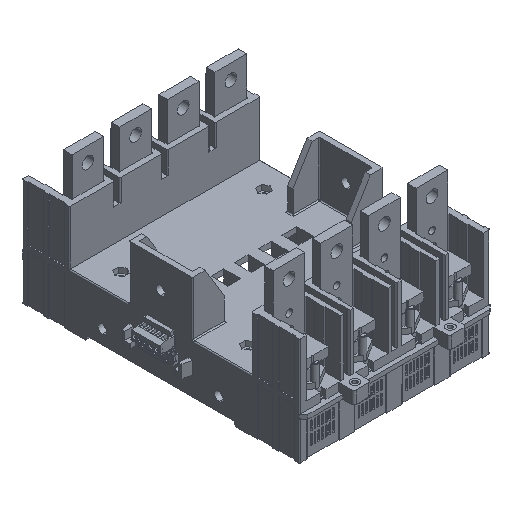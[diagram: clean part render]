
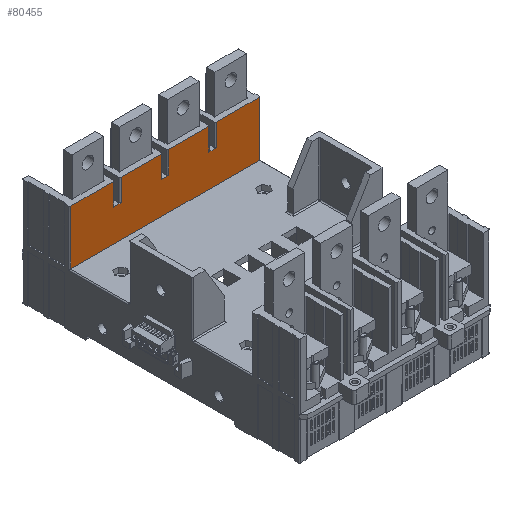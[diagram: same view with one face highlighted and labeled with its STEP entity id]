
A CAD part, isometric view. The second image highlights one B-rep face of the part: STEP entity #80455.
In plain terms, the highlighted planar face has unit normal (0, -1, 0).
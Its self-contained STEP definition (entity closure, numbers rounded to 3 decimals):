
#1139 = EDGE_CURVE ( 'NONE', #23767, #39911, #27699, .T. ) ;
#3789 = DIRECTION ( 'NONE',  ( 0., 1., 0. ) ) ;
#6859 = LINE ( 'NONE', #103410, #134802 ) ;
#8192 = CARTESIAN_POINT ( 'NONE',  ( -5.599, 171.5, 101.5 ) ) ;
#8262 = CARTESIAN_POINT ( 'NONE',  ( 93.6, 171.5, 80.5 ) ) ;
#10829 = VECTOR ( 'NONE', #90984, 1000. ) ;
#11875 = CARTESIAN_POINT ( 'NONE',  ( 1., 171.5, -111.719 ) ) ;
#14319 = LINE ( 'NONE', #11875, #129276 ) ;
#15366 = DIRECTION ( 'NONE',  ( 1., 0., 0. ) ) ;
#16218 = VERTEX_POINT ( 'NONE', #18554 ) ;
#18554 = CARTESIAN_POINT ( 'NONE',  ( 179., 171.5, 101.5 ) ) ;
#21899 = ORIENTED_EDGE ( 'NONE', *, *, #1139, .F. ) ;
#23767 = VERTEX_POINT ( 'NONE', #117277 ) ;
#25292 = DIRECTION ( 'NONE',  ( 1., 0., 0. ) ) ;
#25602 = DIRECTION ( 'NONE',  ( 1., 0., 0. ) ) ;
#26093 = CARTESIAN_POINT ( 'NONE',  ( 131.4, 171.5, 80.5 ) ) ;
#27699 = LINE ( 'NONE', #100104, #112521 ) ;
#28164 = LINE ( 'NONE', #76432, #10829 ) ;
#29044 = CARTESIAN_POINT ( 'NONE',  ( 138.6, 171.5, 80.5 ) ) ;
#35039 = CARTESIAN_POINT ( 'NONE',  ( 41.4, 171.5, 101.5 ) ) ;
#35719 = VECTOR ( 'NONE', #85680, 1000. ) ;
#36041 = DIRECTION ( 'NONE',  ( -1., 0., 0. ) ) ;
#37281 = CARTESIAN_POINT ( 'NONE',  ( -5.599, 171.5, 101.5 ) ) ;
#38381 = LINE ( 'NONE', #110840, #73053 ) ;
#38541 = DIRECTION ( 'NONE',  ( 1., 0., 0. ) ) ;
#39455 = ORIENTED_EDGE ( 'NONE', *, *, #42049, .F. ) ;
#39536 = CARTESIAN_POINT ( 'NONE',  ( -5.599, 171.5, 80.5 ) ) ;
#39543 = ORIENTED_EDGE ( 'NONE', *, *, #86585, .F. ) ;
#39562 = VECTOR ( 'NONE', #78300, 1000. ) ;
#39911 = VERTEX_POINT ( 'NONE', #26093 ) ;
#40946 = LINE ( 'NONE', #125478, #46571 ) ;
#42049 = EDGE_CURVE ( 'NONE', #126585, #84519, #14319, .T. ) ;
#42345 = CARTESIAN_POINT ( 'NONE',  ( -5.599, 171.5, -111.719 ) ) ;
#43087 = VERTEX_POINT ( 'NONE', #114094 ) ;
#46571 = VECTOR ( 'NONE', #38541, 1000. ) ;
#47036 = CARTESIAN_POINT ( 'NONE',  ( -5.599, 171.5, 80.5 ) ) ;
#48046 = VECTOR ( 'NONE', #15366, 1000. ) ;
#49036 = VECTOR ( 'NONE', #97719, 1000. ) ;
#49421 = VECTOR ( 'NONE', #118097, 1000. ) ;
#51089 = ORIENTED_EDGE ( 'NONE', *, *, #148725, .F. ) ;
#51941 = ORIENTED_EDGE ( 'NONE', *, *, #61020, .F. ) ;
#52731 = VECTOR ( 'NONE', #105182, 1000. ) ;
#54493 = ORIENTED_EDGE ( 'NONE', *, *, #92754, .F. ) ;
#55804 = DIRECTION ( 'NONE',  ( 0., 0., -1. ) ) ;
#59423 = VERTEX_POINT ( 'NONE', #35039 ) ;
#61020 = EDGE_CURVE ( 'NONE', #131899, #91900, #77346, .T. ) ;
#62369 = FACE_OUTER_BOUND ( 'NONE', #67781, .T. ) ;
#63567 = DIRECTION ( 'NONE',  ( 0., 0., -1. ) ) ;
#67781 = EDGE_LOOP ( 'NONE', ( #73117, #51089, #80985, #21899, #82743, #54493, #93267, #39543, #51941, #108527, #111260, #84819, #85833, #39455, #71535, #142523 ) ) ;
#68562 = CARTESIAN_POINT ( 'NONE',  ( 138.6, 171.5, 101.5 ) ) ;
#68672 = CARTESIAN_POINT ( 'NONE',  ( -5.599, 171.5, 101.5 ) ) ;
#70304 = EDGE_CURVE ( 'NONE', #84519, #59423, #104887, .T. ) ;
#70978 = LINE ( 'NONE', #8192, #48046 ) ;
#71344 = CARTESIAN_POINT ( 'NONE',  ( 1., 171.5, 101.5 ) ) ;
#71535 = ORIENTED_EDGE ( 'NONE', *, *, #76528, .F. ) ;
#73053 = VECTOR ( 'NONE', #36041, 1000. ) ;
#73117 = ORIENTED_EDGE ( 'NONE', *, *, #89396, .F. ) ;
#73858 = PLANE ( 'NONE',  #108212 ) ;
#74040 = EDGE_CURVE ( 'NONE', #89974, #78850, #90388, .T. ) ;
#75481 = EDGE_CURVE ( 'NONE', #16218, #109215, #147698, .T. ) ;
#76432 = CARTESIAN_POINT ( 'NONE',  ( 138.6, 171.5, -111.719 ) ) ;
#76528 = EDGE_CURVE ( 'NONE', #109215, #126585, #38381, .T. ) ;
#77346 = LINE ( 'NONE', #106318, #105022 ) ;
#78171 = LINE ( 'NONE', #140840, #121769 ) ;
#78300 = DIRECTION ( 'NONE',  ( 1., 0., 0. ) ) ;
#78850 = VERTEX_POINT ( 'NONE', #8262 ) ;
#79829 = DIRECTION ( 'NONE',  ( 1., 0., 0. ) ) ;
#80051 = VECTOR ( 'NONE', #55804, 1000. ) ;
#80455 = ADVANCED_FACE ( 'NONE', ( #62369 ), #73858, .F. ) ;
#80985 = ORIENTED_EDGE ( 'NONE', *, *, #129462, .F. ) ;
#82743 = ORIENTED_EDGE ( 'NONE', *, *, #128735, .F. ) ;
#82953 = CARTESIAN_POINT ( 'NONE',  ( 179., 171.5, 50. ) ) ;
#84519 = VERTEX_POINT ( 'NONE', #71344 ) ;
#84819 = ORIENTED_EDGE ( 'NONE', *, *, #147337, .F. ) ;
#85680 = DIRECTION ( 'NONE',  ( 1., 0., 0. ) ) ;
#85833 = ORIENTED_EDGE ( 'NONE', *, *, #70304, .F. ) ;
#86585 = EDGE_CURVE ( 'NONE', #91900, #89974, #78171, .T. ) ;
#87869 = CARTESIAN_POINT ( 'NONE',  ( 1., 171.5, 50. ) ) ;
#88078 = LINE ( 'NONE', #47036, #35719 ) ;
#89396 = EDGE_CURVE ( 'NONE', #141947, #16218, #70978, .T. ) ;
#89974 = VERTEX_POINT ( 'NONE', #93760 ) ;
#90388 = LINE ( 'NONE', #39536, #52731 ) ;
#90984 = DIRECTION ( 'NONE',  ( 0., 0., 1. ) ) ;
#91164 = CARTESIAN_POINT ( 'NONE',  ( 86.4, 171.5, 101.5 ) ) ;
#91900 = VERTEX_POINT ( 'NONE', #91164 ) ;
#92754 = EDGE_CURVE ( 'NONE', #78850, #43087, #121857, .T. ) ;
#93267 = ORIENTED_EDGE ( 'NONE', *, *, #74040, .F. ) ;
#93760 = CARTESIAN_POINT ( 'NONE',  ( 86.4, 171.5, 80.5 ) ) ;
#95183 = VECTOR ( 'NONE', #25292, 1000. ) ;
#95970 = VERTEX_POINT ( 'NONE', #29044 ) ;
#97719 = DIRECTION ( 'NONE',  ( 0., 0., 1. ) ) ;
#97738 = DIRECTION ( 'NONE',  ( 0., 0., -1. ) ) ;
#100104 = CARTESIAN_POINT ( 'NONE',  ( 131.4, 171.5, -111.719 ) ) ;
#100728 = VERTEX_POINT ( 'NONE', #105199 ) ;
#103410 = CARTESIAN_POINT ( 'NONE',  ( 48.6, 171.5, -111.719 ) ) ;
#104887 = LINE ( 'NONE', #37281, #95183 ) ;
#105022 = VECTOR ( 'NONE', #79829, 1000. ) ;
#105182 = DIRECTION ( 'NONE',  ( 1., 0., 0. ) ) ;
#105199 = CARTESIAN_POINT ( 'NONE',  ( 48.6, 171.5, 80.5 ) ) ;
#106318 = CARTESIAN_POINT ( 'NONE',  ( -5.599, 171.5, 101.5 ) ) ;
#107649 = VERTEX_POINT ( 'NONE', #114809 ) ;
#108212 = AXIS2_PLACEMENT_3D ( 'NONE', #42345, #3789, #25602 ) ;
#108527 = ORIENTED_EDGE ( 'NONE', *, *, #119309, .F. ) ;
#109215 = VERTEX_POINT ( 'NONE', #82953 ) ;
#110117 = CARTESIAN_POINT ( 'NONE',  ( 48.6, 171.5, 101.5 ) ) ;
#110840 = CARTESIAN_POINT ( 'NONE',  ( 135., 171.5, 50. ) ) ;
#111260 = ORIENTED_EDGE ( 'NONE', *, *, #137764, .F. ) ;
#112521 = VECTOR ( 'NONE', #97738, 1000. ) ;
#113228 = LINE ( 'NONE', #120464, #49421 ) ;
#114094 = CARTESIAN_POINT ( 'NONE',  ( 93.6, 171.5, 101.5 ) ) ;
#114809 = CARTESIAN_POINT ( 'NONE',  ( 41.4, 171.5, 80.5 ) ) ;
#117277 = CARTESIAN_POINT ( 'NONE',  ( 131.4, 171.5, 101.5 ) ) ;
#118097 = DIRECTION ( 'NONE',  ( 0., 0., -1. ) ) ;
#118124 = DIRECTION ( 'NONE',  ( 0., 0., 1. ) ) ;
#118623 = CARTESIAN_POINT ( 'NONE',  ( 179., 171.5, -111.719 ) ) ;
#119309 = EDGE_CURVE ( 'NONE', #100728, #131899, #6859, .T. ) ;
#120464 = CARTESIAN_POINT ( 'NONE',  ( 41.4, 171.5, -111.719 ) ) ;
#121769 = VECTOR ( 'NONE', #63567, 1000. ) ;
#121857 = LINE ( 'NONE', #124207, #49036 ) ;
#124207 = CARTESIAN_POINT ( 'NONE',  ( 93.6, 171.5, -111.719 ) ) ;
#125478 = CARTESIAN_POINT ( 'NONE',  ( -5.599, 171.5, 80.5 ) ) ;
#126585 = VERTEX_POINT ( 'NONE', #87869 ) ;
#127542 = DIRECTION ( 'NONE',  ( 0., 0., 1. ) ) ;
#128735 = EDGE_CURVE ( 'NONE', #43087, #23767, #143463, .T. ) ;
#129276 = VECTOR ( 'NONE', #118124, 1000. ) ;
#129462 = EDGE_CURVE ( 'NONE', #39911, #95970, #88078, .T. ) ;
#131899 = VERTEX_POINT ( 'NONE', #110117 ) ;
#134802 = VECTOR ( 'NONE', #127542, 1000. ) ;
#137764 = EDGE_CURVE ( 'NONE', #107649, #100728, #40946, .T. ) ;
#140840 = CARTESIAN_POINT ( 'NONE',  ( 86.4, 171.5, -111.719 ) ) ;
#141947 = VERTEX_POINT ( 'NONE', #68562 ) ;
#142523 = ORIENTED_EDGE ( 'NONE', *, *, #75481, .F. ) ;
#143463 = LINE ( 'NONE', #68672, #39562 ) ;
#147337 = EDGE_CURVE ( 'NONE', #59423, #107649, #113228, .T. ) ;
#147698 = LINE ( 'NONE', #118623, #80051 ) ;
#148725 = EDGE_CURVE ( 'NONE', #95970, #141947, #28164, .T. ) ;
